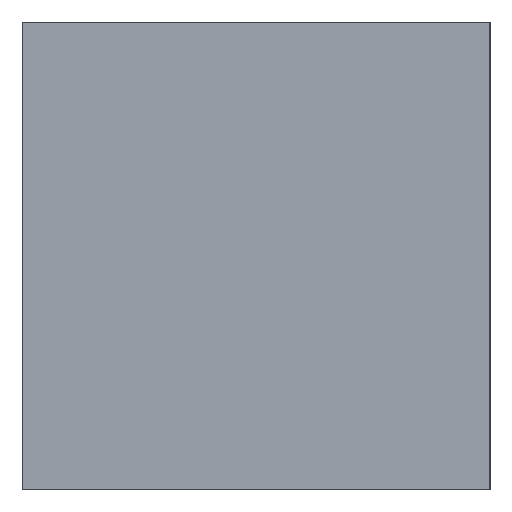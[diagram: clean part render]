
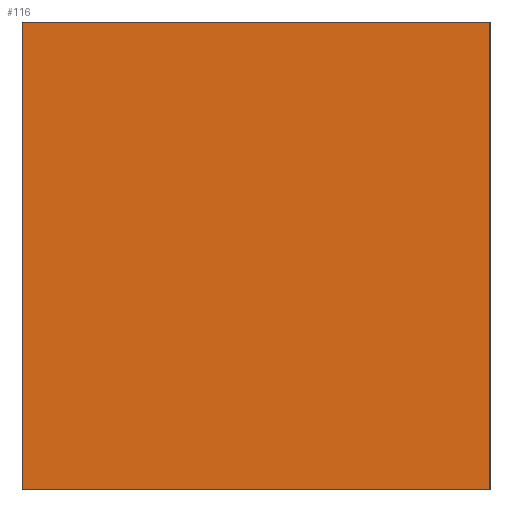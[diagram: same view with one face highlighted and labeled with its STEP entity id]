
A CAD part, left-side view. The second image highlights one B-rep face of the part: STEP entity #116.
In plain terms, the highlighted planar face has unit normal (-1, 0, 0).
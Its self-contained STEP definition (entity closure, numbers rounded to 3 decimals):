
#3 = ORIENTED_EDGE ( 'NONE', *, *, #154, .F. ) ;
#4 = ORIENTED_EDGE ( 'NONE', *, *, #150, .F. ) ;
#7 = ORIENTED_EDGE ( 'NONE', *, *, #147, .F. ) ;
#18 = FACE_OUTER_BOUND ( 'NONE', #127, .T. ) ;
#22 = LINE ( 'NONE', #63, #37 ) ;
#34 = LINE ( 'NONE', #62, #46 ) ;
#37 = VECTOR ( 'NONE', #83, 1000. ) ;
#40 = LINE ( 'NONE', #180, #41 ) ;
#41 = VECTOR ( 'NONE', #186, 1000. ) ;
#44 = LINE ( 'NONE', #191, #45 ) ;
#45 = VECTOR ( 'NONE', #195, 1000. ) ;
#46 = VECTOR ( 'NONE', #112, 1000. ) ;
#62 = CARTESIAN_POINT ( 'NONE',  ( -507.25, 3., 3. ) ) ;
#63 = CARTESIAN_POINT ( 'NONE',  ( -507.25, 3., -3. ) ) ;
#65 = CARTESIAN_POINT ( 'NONE',  ( -507.25, -3., -3. ) ) ;
#71 = CARTESIAN_POINT ( 'NONE',  ( -507.25, 3., -3. ) ) ;
#72 = CARTESIAN_POINT ( 'NONE',  ( -507.25, -3., 3. ) ) ;
#74 = VERTEX_POINT ( 'NONE', #85 ) ;
#76 = VERTEX_POINT ( 'NONE', #90 ) ;
#77 = VERTEX_POINT ( 'NONE', #72 ) ;
#79 = VERTEX_POINT ( 'NONE', #71 ) ;
#83 = DIRECTION ( 'NONE',  ( 0., 1., 0. ) ) ;
#85 = CARTESIAN_POINT ( 'NONE',  ( -507.25, -3., -3. ) ) ;
#88 = PLANE ( 'NONE',  #136 ) ;
#90 = CARTESIAN_POINT ( 'NONE',  ( -507.25, 3., 3. ) ) ;
#107 = DIRECTION ( 'NONE',  ( 1., 0., 0. ) ) ;
#108 = DIRECTION ( 'NONE',  ( 0., 0., -1. ) ) ;
#112 = DIRECTION ( 'NONE',  ( 0., -1., 0. ) ) ;
#116 = ADVANCED_FACE ( 'NONE', ( #18 ), #88, .F. ) ;
#127 = EDGE_LOOP ( 'NONE', ( #7, #4, #3, #164 ) ) ;
#136 = AXIS2_PLACEMENT_3D ( 'NONE', #65, #107, #108 ) ;
#147 = EDGE_CURVE ( 'NONE', #74, #79, #22, .T. ) ;
#150 = EDGE_CURVE ( 'NONE', #77, #74, #40, .T. ) ;
#152 = EDGE_CURVE ( 'NONE', #79, #76, #44, .T. ) ;
#154 = EDGE_CURVE ( 'NONE', #76, #77, #34, .T. ) ;
#164 = ORIENTED_EDGE ( 'NONE', *, *, #152, .F. ) ;
#180 = CARTESIAN_POINT ( 'NONE',  ( -507.25, -3., 3. ) ) ;
#186 = DIRECTION ( 'NONE',  ( 0., 0., -1. ) ) ;
#191 = CARTESIAN_POINT ( 'NONE',  ( -507.25, 3., 3. ) ) ;
#195 = DIRECTION ( 'NONE',  ( 0., 0., 1. ) ) ;
